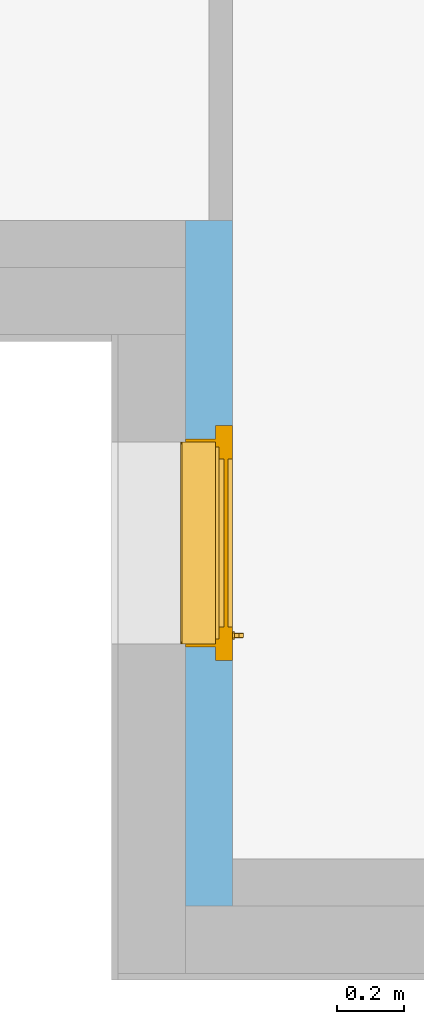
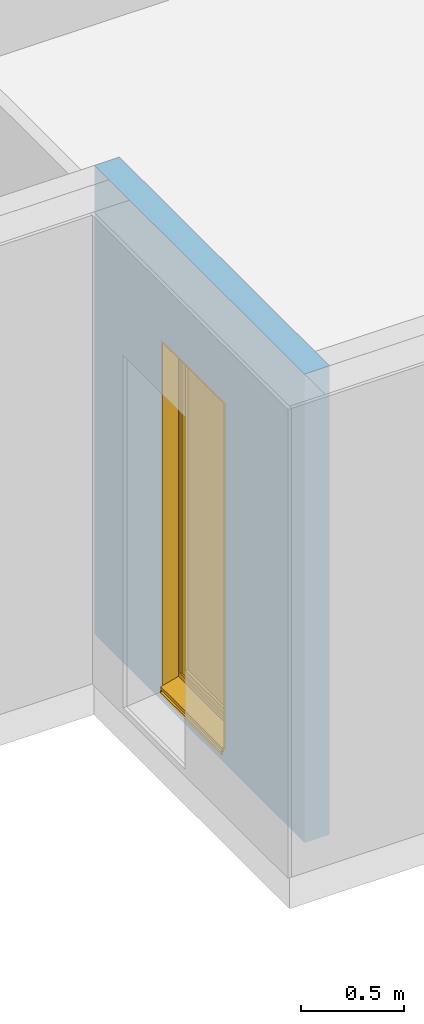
"""IFC2X3 building model written with IfcOpenShell, lengths in centimetres."""

from ifc_helpers import new_model, entity, si_unit, converted_unit, derived_unit, direction, frame, frame_2d, origin, place, context, subcontext, project, spatial, rectangle, extrude, faceted_brep, source, transform, mapped, material, material_list, layer, layer_set, layer_usage, type_object, type_shapes, element, fill, save


model = new_model("IFC2X3")

# Units and contexts
model_context = context("Model", 3, precision=0.001, world=origin(), true_north=direction((6.123031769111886e-17, 1.0)))
body_context = subcontext(model_context, "Body", "Model", "MODEL_VIEW")
ifc_project = project(units=[si_unit("LENGTHUNIT", "METRE", prefix="CENTI"), si_unit("AREAUNIT", "SQUARE_METRE"), si_unit("VOLUMEUNIT", "CUBIC_METRE"), converted_unit("PLANEANGLEUNIT", "DEGREE", entity("IfcRatioMeasure", 0.017453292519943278), si_unit("PLANEANGLEUNIT", "RADIAN"), dimensions=[0, 0, 0, 0, 0, 0, 0]), si_unit("MASSUNIT", "GRAM", prefix="KILO"), derived_unit("MASSDENSITYUNIT", [(si_unit("MASSUNIT", "GRAM", prefix="KILO"), 1), (si_unit("LENGTHUNIT", "METRE"), -3)]), derived_unit("MOMENTOFINERTIAUNIT", [(si_unit("LENGTHUNIT", "METRE"), 4)]), si_unit("TIMEUNIT", "SECOND"), si_unit("FREQUENCYUNIT", "HERTZ"), si_unit("THERMODYNAMICTEMPERATUREUNIT", "DEGREE_CELSIUS"), derived_unit("THERMALTRANSMITTANCEUNIT", [(si_unit("MASSUNIT", "GRAM", prefix="KILO"), 1), (si_unit("THERMODYNAMICTEMPERATUREUNIT", "KELVIN"), -1), (si_unit("TIMEUNIT", "SECOND"), -3)]), derived_unit("VOLUMETRICFLOWRATEUNIT", [(si_unit("LENGTHUNIT", "METRE"), 3), (si_unit("TIMEUNIT", "SECOND"), -1)]), derived_unit("MASSFLOWRATEUNIT", [(si_unit("MASSUNIT", "GRAM", prefix="KILO"), 1), (si_unit("TIMEUNIT", "SECOND"), -1)]), derived_unit("ROTATIONALFREQUENCYUNIT", [(si_unit("TIMEUNIT", "SECOND"), -1)]), si_unit("ELECTRICCURRENTUNIT", "AMPERE"), si_unit("ELECTRICVOLTAGEUNIT", "VOLT"), si_unit("POWERUNIT", "WATT"), si_unit("FORCEUNIT", "NEWTON", prefix="KILO"), si_unit("ILLUMINANCEUNIT", "LUX"), si_unit("LUMINOUSFLUXUNIT", "LUMEN"), si_unit("LUMINOUSINTENSITYUNIT", "CANDELA"), derived_unit("USERDEFINED", [(si_unit("MASSUNIT", "GRAM", prefix="KILO"), -1), (si_unit("LENGTHUNIT", "METRE"), -2), (si_unit("TIMEUNIT", "SECOND"), 3), (si_unit("LUMINOUSFLUXUNIT", "LUMEN"), 1)]), derived_unit("SOUNDPOWERUNIT", [(si_unit("MASSUNIT", "GRAM", prefix="KILO"), 1), (si_unit("LENGTHUNIT", "METRE"), 2), (si_unit("TIMEUNIT", "SECOND"), -3)]), derived_unit("SOUNDPRESSUREUNIT", [(si_unit("MASSUNIT", "GRAM", prefix="KILO"), 1), (si_unit("LENGTHUNIT", "METRE"), -1), (si_unit("TIMEUNIT", "SECOND"), -2)]), derived_unit("LINEARVELOCITYUNIT", [(si_unit("LENGTHUNIT", "METRE"), 1), (si_unit("TIMEUNIT", "SECOND"), -1)]), si_unit("PRESSUREUNIT", "PASCAL"), derived_unit("USERDEFINED", [(si_unit("LENGTHUNIT", "METRE"), -2), (si_unit("MASSUNIT", "GRAM", prefix="KILO"), 1), (si_unit("TIMEUNIT", "SECOND"), -2)]), derived_unit("LINEARFORCEUNIT", [(si_unit("MASSUNIT", "GRAM", prefix="KILO"), 1), (si_unit("LENGTHUNIT", "METRE"), 1), (si_unit("TIMEUNIT", "SECOND"), -2), (si_unit("LENGTHUNIT", "METRE"), -1)]), derived_unit("PLANARFORCEUNIT", [(si_unit("MASSUNIT", "GRAM", prefix="KILO"), 1), (si_unit("LENGTHUNIT", "METRE"), 1), (si_unit("TIMEUNIT", "SECOND"), -2), (si_unit("LENGTHUNIT", "METRE"), -2)])], contexts=[model_context])

# Site, building, storey
site_placement = place(None, origin())
site = spatial("IfcSite", under=ifc_project, at=site_placement, Name="Default", CompositionType="ELEMENT")
building_placement = place(site_placement, origin())
building = spatial("IfcBuilding", under=site, at=building_placement, CompositionType="ELEMENT")
storey_1_placement = place(building_placement, frame((0.0, 0.0, -8.0)))
storey_1 = spatial("IfcBuildingStorey", under=building, at=storey_1_placement, Name="-0.08_Dessus plancher", CompositionType="ELEMENT", Elevation=-8.000000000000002)

# Wall, opening
ifc_material_1 = material(Name="Isolant rigide")
ifc_layer = layer(ifc_material_1, 14.0)
ifc_layer_set = layer_set([ifc_layer], Name="Mur de base:Doublage 14")
ifc_layer_usage = layer_usage(ifc_layer_set, "AXIS2", "NEGATIVE", 7.0)
wall_type = type_object("IfcWallType", Name="Mur de base:Doublage 14", PredefinedType="STANDARD", material=ifc_layer_set)
wall_placement = place(storey_1_placement, frame((-954.8253630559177, -84.39570391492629, 0.0), z_axis=(0.0, 0.0, 1.0), x_axis=(0.0, 1.0, 0.0)))
wall = element("IfcWallStandardCase", 1, at=wall_placement, inside=storey_1, type_object=wall_type, material=ifc_layer_usage, Name="Mur de base:Doublage 14", ObjectType="Mur de base:Doublage 14", context=body_context, shape_type="SweptSolid", body=[
    extrude(rectangle(XDim=204.00000000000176, YDim=13.999999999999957, at=frame_2d((102.0000000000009, 6.616929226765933e-14), x_axis=(-1.0, 0.0))), origin(), (0.0, 0.0, 1.0), 278.00000000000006),
])
opening_placement = place(wall_placement, frame((73.0, 50.0, 1.7703094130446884), z_axis=(0.0, 0.0, 1.0), x_axis=(0.0, -1.0, 0.0)))
opening = element("IfcOpeningElement", 2, at=opening_placement, cuts=wall, Name="Mur de base:Doublage 14", ObjectType="Opening", context=body_context, shape_type="Brep", body=[
    faceted_brep([(45.0, 5.0, 6.229690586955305), (43.0, 5.0, 6.229690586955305), (43.0, 5.0, 211.22969058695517), (0.0, 5.0, 211.22969058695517), (0.0, 5.0, 0.0), (45.0, 5.0, 4.729690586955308), (100.0, 65.0, 6.229690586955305), (57.0, 65.0, 6.229690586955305), (57.0, 65.0, 211.22969058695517), (100.0, 65.0, 211.22969058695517), (100.0, 5.0, 6.229690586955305), (57.0, 5.0, 6.229690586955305), (57.0, 0.0, 6.229690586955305), (52.0, 0.0, 6.229690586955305), (52.0, 4.0, 6.229690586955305), (43.0, 4.0, 6.229690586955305), (45.0, 65.0, 6.229690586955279), (43.0, 65.0, 6.229690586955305), (43.0, 66.0, 6.229690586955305), (52.0, 66.0, 6.229690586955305), (52.0, 70.0, 6.229690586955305), (57.0, 70.0, 6.229690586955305), (100.0, 5.0, 211.22969058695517), (43.0, 65.0, 211.22969058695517), (0.0, 65.0, 211.22969058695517), (0.0, 65.0, 0.0), (45.0, 65.0, 4.729690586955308), (57.0, 0.0, 216.22969058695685), (52.0, 0.0, 216.22969058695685), (52.0, 70.0, 216.22969058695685), (52.0, 66.0, 212.22969058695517), (52.0, 4.0, 212.22969058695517), (43.0, 4.0, 212.22969058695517), (43.0, 66.0, 212.22969058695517), (57.0, 5.0, 211.22969058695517), (57.0, 70.0, 216.22969058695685)], [[[0, 1, 2, 3, 4, 5]], [[6, 7, 8, 9]], [[10, 11, 12, 13, 14, 15, 1, 0, 16, 17, 18, 19, 20, 21, 7, 6]], [[10, 6, 9, 22]], [[3, 2, 23, 24]], [[3, 24, 25, 4]], [[4, 25, 26, 5]], [[5, 26, 16, 0]], [[12, 27, 28, 13]], [[13, 28, 29, 20, 19, 30, 31, 14]], [[14, 31, 32, 15]], [[15, 32, 33, 18, 17, 23, 2, 1]], [[11, 34, 8, 7, 21, 35, 27, 12]], [[27, 35, 29, 28]], [[30, 33, 32, 31]], [[29, 35, 21, 20]], [[19, 18, 33, 30]], [[9, 8, 34, 22]], [[24, 23, 17, 16, 26, 25]], [[22, 34, 11, 10]]]),
])

# Storey
storey_2_placement = place(building_placement, origin())
storey_2 = spatial("IfcBuildingStorey", under=building, at=storey_2_placement, Name="1_Rez-de-chaussée", CompositionType="ELEMENT", Elevation=-7.93413063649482e-11)

# Window
ifc_material_2 = material(Name="Fenêtre - Poignée")
ifc_material_3 = material(Name="Fenêtre - Appui")
ifc_material_4 = material(Name="Fenêtre - Vitrage")
ifc_material_5 = material(Name="Fenêtre - Cadre")
ifc_material_list_1 = material_list([ifc_material_2, ifc_material_2, ifc_material_3, ifc_material_3, ifc_material_3, ifc_material_4, ifc_material_5, ifc_material_5, ifc_material_5])
ifc_material_list_2 = material_list([ifc_material_2, ifc_material_2, ifc_material_3, ifc_material_3, ifc_material_3, ifc_material_4, ifc_material_5, ifc_material_5, ifc_material_5])
window_style = type_object("IfcWindowStyle", Name="1 Vantail - Droit:0.60 m x 2.05 m", ConstructionType="NOTDEFINED", OperationType="NOTDEFINED", ParameterTakesPrecedence=False, Sizeable=False, material=ifc_material_list_2)
shared_shape = source(origin(), body_context, "Body", "Brep", [
    faceted_brep([(8.064600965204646, -57.60000000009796, 68.43308351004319), (8.203392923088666, -57.60000000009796, 68.29429155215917), (8.203392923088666, -57.60000000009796, 67.16292070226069), (8.066769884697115, -57.60000000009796, 67.02629766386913), (6.933230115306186, -57.60000000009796, 67.02629766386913), (6.796607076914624, -57.60000000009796, 67.16292070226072), (6.796607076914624, -57.60000000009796, 68.29429155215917), (6.935399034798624, -57.60000000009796, 68.43308351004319), (8.064600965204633, -58.891354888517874, 68.43308351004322), (8.203392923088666, -58.833865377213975, 68.29429155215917), (8.203392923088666, -60.16460096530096, 66.9635559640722), (8.203392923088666, -60.16460096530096, 58.22969058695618), (8.203392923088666, -59.033230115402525, 58.22969058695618), (8.203392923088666, -59.03323011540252, 66.49492681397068), (8.203392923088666, -58.36523622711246, 67.16292070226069), (8.066769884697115, -58.308645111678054, 67.02629766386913), (6.9332301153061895, -58.308645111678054, 67.02629766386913), (6.796607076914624, -58.36523622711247, 67.16292070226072), (6.796607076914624, -59.03323011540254, 66.49492681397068), (6.796607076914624, -59.03323011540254, 58.22969058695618), (6.796607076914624, -60.16460096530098, 58.22969058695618), (6.796607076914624, -60.16460096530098, 66.9635559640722), (6.796607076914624, -58.833865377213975, 68.29429155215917), (6.935399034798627, -58.89135488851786, 68.43308351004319), (8.064600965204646, -60.303392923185, 67.02104547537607), (8.066769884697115, -58.896607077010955, 66.43833569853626), (6.9332301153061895, -58.89660707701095, 66.43833569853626), (6.935399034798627, -60.303392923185, 67.02104547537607), (8.064600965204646, -60.30339292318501, 58.22969058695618), (6.935399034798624, -60.30339292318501, 58.22969058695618), (6.933230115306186, -58.89660707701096, 58.22969058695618), (8.066769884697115, -58.89660707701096, 58.22969058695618)], [[[0, 1, 2, 3, 4, 5, 6, 7]], [[1, 0, 8, 9]], [[2, 1, 9, 10, 11, 12, 13, 14]], [[3, 2, 14, 15]], [[4, 3, 15, 16]], [[5, 4, 16, 17]], [[6, 5, 17, 18, 19, 20, 21, 22]], [[7, 6, 22, 23]], [[0, 7, 23, 8]], [[9, 8, 24, 10]], [[15, 14, 13, 25]], [[16, 15, 25, 26]], [[17, 16, 26, 18]], [[23, 22, 21, 27]], [[8, 23, 27, 24]], [[28, 29, 20, 19, 30, 31, 12, 11]], [[10, 24, 28, 11]], [[25, 13, 12, 31]], [[26, 25, 31, 30]], [[18, 26, 30, 19]], [[27, 21, 20, 29]], [[24, 27, 29, 28]]]),
    faceted_brep([(8.200000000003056, -57.60000000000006, 70.22969058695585), (6.800000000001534, -57.60000000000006, 70.22969058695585), (6.300000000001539, -57.60000000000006, 69.72969058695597), (6.300000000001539, -57.60000000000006, 62.72969058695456), (6.800000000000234, -57.60000000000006, 62.22969058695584), (8.200000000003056, -57.60000000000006, 62.22969058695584), (8.700000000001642, -57.60000000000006, 62.72969058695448), (8.700000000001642, -57.60000000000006, 69.72969058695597), (8.200000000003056, -57.0, 70.22969058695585), (8.700000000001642, -57.0, 69.72969058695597), (8.700000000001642, -57.0, 62.72969058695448), (8.200000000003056, -57.0, 62.22969058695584), (6.800000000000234, -57.0, 62.22969058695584), (6.300000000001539, -57.0, 62.72969058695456), (6.300000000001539, -57.0, 69.72969058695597), (6.800000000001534, -57.0, 70.22969058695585)], [[[0, 1, 2, 3, 4, 5, 6, 7]], [[8, 9, 10, 11, 12, 13, 14, 15]], [[1, 0, 8, 15]], [[2, 1, 15, 14]], [[3, 2, 14, 13]], [[4, 3, 13, 12]], [[5, 4, 12, 11]], [[6, 5, 11, 10]], [[7, 6, 10, 9]], [[0, 7, 9, 8]]]),
    faceted_brep([(65.0, -41.49999999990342, 4.887346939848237), (65.0, -44.49999999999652, 5.202659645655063), (65.0, -44.49999999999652, 6.229690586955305), (65.0, -45.0, 6.229690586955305), (65.0, -45.0, 4.729690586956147), (65.0, -42.0, 4.4143778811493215), (65.0, -42.0, 3.384327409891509), (65.0, -41.49999999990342, 3.331775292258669), (5.0, -41.49999999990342, 4.887346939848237), (5.0, -41.49999999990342, 3.331775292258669), (5.0, -42.0, 3.384327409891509), (5.0, -42.0, 4.4143778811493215), (5.0, -45.0, 4.729690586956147), (5.0, -45.0, 6.229690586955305), (5.0, -44.49999999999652, 6.229690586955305), (5.0, -44.49999999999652, 5.202659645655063)], [[[0, 1, 2, 3, 4, 5, 6, 7]], [[8, 9, 10, 11, 12, 13, 14, 15]], [[1, 0, 8, 15]], [[2, 1, 15, 14]], [[3, 2, 14, 13]], [[4, 3, 13, 12]], [[5, 4, 12, 11]], [[6, 5, 11, 10]], [[7, 6, 10, 9]], [[0, 7, 9, 8]]]),
    faceted_brep([(5.0, -41.49999999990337, 5.029939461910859), (5.0, -41.49999999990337, 4.887346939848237), (5.0, -44.499999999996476, 5.202659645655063), (5.0, -44.499999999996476, 5.7054137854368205), (5.0, -41.85818861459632, 5.427748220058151), (5.0, -41.60274206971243, 5.297591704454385), (5.5000000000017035, -44.499999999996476, 5.7054137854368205), (5.5000000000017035, -44.499999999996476, 5.202659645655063), (5.500000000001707, -41.49999999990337, 4.887346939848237), (5.500000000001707, -41.49999999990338, 5.029939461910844), (5.500000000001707, -41.60274206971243, 5.297591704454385), (5.500000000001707, -41.85818861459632, 5.427748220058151)], [[[0, 1, 2, 3, 4, 5]], [[6, 7, 8, 9, 10, 11]], [[2, 1, 8, 7]], [[3, 2, 7, 6]], [[4, 3, 6, 11]], [[4, 11, 10, 5]], [[10, 9, 0, 5]], [[1, 0, 9, 8]]]),
    faceted_brep([(64.5000000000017, -41.49999999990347, 5.029939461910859), (64.5000000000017, -41.49999999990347, 4.887346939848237), (64.5000000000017, -44.49999999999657, 5.202659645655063), (64.5000000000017, -44.49999999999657, 5.7054137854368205), (64.5000000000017, -41.858188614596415, 5.427748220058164), (64.5000000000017, -41.60274206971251, 5.2975917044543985), (65.0, -44.49999999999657, 5.7054137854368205), (65.0, -44.49999999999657, 5.202659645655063), (65.0, -41.49999999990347, 4.887346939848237), (65.0, -41.499999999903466, 5.029939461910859), (65.0, -41.60274206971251, 5.2975917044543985), (65.0, -41.85818861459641, 5.427748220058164)], [[[0, 1, 2, 3, 4, 5]], [[6, 7, 8, 9, 10, 11]], [[2, 1, 8, 7]], [[3, 2, 7, 6]], [[4, 3, 6, 11]], [[4, 11, 10, 5]], [[10, 9, 0, 5]], [[1, 0, 9, 8]]]),
    faceted_brep([(10.0, -54.40000000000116, 16.229690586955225), (10.0, -54.40000000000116, 206.22969058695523), (60.0, -54.40000000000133, 206.22969058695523), (60.0, -54.40000000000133, 16.229690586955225), (10.0, -55.60000000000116, 16.229690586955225), (10.0, -55.60000000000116, 206.22969058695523), (60.0, -55.60000000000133, 206.22969058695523), (60.0, -55.60000000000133, 16.229690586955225)], [[[0, 1, 2, 3]], [[1, 0, 4, 5]], [[3, 2, 6, 7]], [[0, 3, 7, 4]], [[4, 7, 6, 5]], [[2, 1, 5, 6]]]),
    faceted_brep([(10.0, -53.0, 206.22969058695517), (10.0, -57.0, 206.22969058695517), (10.0, -57.0, 16.22969058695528), (10.0, -53.0, 16.22969058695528), (60.0, -57.0, 16.229690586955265), (60.0, -53.0, 16.22969058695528), (60.0, -57.0, 206.22969058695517), (65.0, -57.0, 11.229690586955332), (65.0, -57.0, 211.22969058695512), (5.0, -57.0, 211.22969058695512), (5.0, -57.0, 11.229690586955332), (60.0, -53.0, 206.22969058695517), (5.0, -53.0, 11.229690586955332), (5.0, -53.0, 211.22969058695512), (65.0, -53.0, 211.22969058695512), (65.0, -53.0, 11.22969058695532)], [[[0, 1, 2, 3]], [[3, 2, 4, 5]], [[2, 1, 6, 4], [7, 8, 9, 10]], [[5, 4, 6, 11]], [[5, 11, 0, 3], [12, 13, 14, 15]], [[9, 13, 12, 10]], [[10, 12, 15, 7]], [[7, 15, 14, 8]], [[11, 6, 1, 0]], [[8, 14, 13, 9]]], outer=[[True], [True], [False, True], [True], [False, True], [True], [True], [True], [True], [True]]),
    faceted_brep([(0.0, -57.0, 6.229690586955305), (0.0, -52.0, 6.229690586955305), (5.0, -52.0, 6.229690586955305), (5.0, -43.0, 6.229690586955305), (65.0, -43.0, 6.229690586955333), (65.0, -52.0, 6.229690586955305), (70.0, -52.0, 6.229690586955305), (70.0, -57.0, 6.229690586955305), (0.0, -57.0, 216.22969058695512), (0.0, -52.0, 216.22969058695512), (70.0, -52.0, 216.22969058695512), (65.0, -52.0, 10.167304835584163), (5.0, -52.0, 10.167304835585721), (6.500000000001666, -52.0, 209.7296905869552), (6.500000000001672, -52.0, 12.729690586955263), (63.5000000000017, -52.0, 12.729690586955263), (63.500000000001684, -52.0, 209.7296905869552), (5.0, -42.0, 7.48781291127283), (5.0, -42.0, 5.729690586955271), (5.0, -43.0, 5.729690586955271), (65.0, -43.0, 5.729690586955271), (65.0, -42.0, 5.729690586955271), (65.0, -42.0, 7.48781291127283), (70.0, -57.0, 216.22969058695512), (65.0, -57.0, 211.22969058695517), (65.0, -57.0, 11.229690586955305), (5.0, -57.0, 11.229690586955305), (5.0, -57.0, 211.22969058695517), (6.500000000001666, -53.0, 209.7296905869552), (6.500000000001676, -53.0, 12.729690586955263), (63.5000000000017, -53.0, 12.729690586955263), (63.500000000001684, -53.0, 209.7296905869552), (65.0, -53.0, 211.22969058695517), (5.0, -53.0, 211.22969058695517), (5.0, -53.0, 11.229690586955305), (65.0, -53.0, 11.229690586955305)], [[[0, 1, 2, 3, 4, 5, 6, 7]], [[1, 0, 8, 9]], [[1, 9, 10, 6, 5, 11, 12, 2], [13, 14, 15, 16]], [[12, 17, 18, 19, 3, 2]], [[3, 19, 20, 4]], [[4, 20, 21, 22, 11, 5]], [[6, 10, 23, 7]], [[0, 7, 23, 8], [24, 25, 26, 27]], [[13, 28, 29, 14]], [[29, 30, 15, 14]], [[31, 16, 15, 30]], [[17, 12, 11, 22]], [[28, 31, 30, 29], [32, 33, 34, 35]], [[34, 33, 27, 26]], [[26, 25, 35, 34]], [[24, 32, 35, 25]], [[18, 17, 22, 21]], [[19, 18, 21, 20]], [[13, 16, 31, 28]], [[10, 9, 8, 23]], [[33, 32, 24, 27]]], outer=[[True], [True], [True, False], [True], [True], [True], [True], [True, False], [True], [True], [True], [True], [False, True], [True], [True], [True], [True], [True], [True], [True], [True]]),
    faceted_brep([(5.0, -43.0, 6.229690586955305), (5.0, -52.0, 6.229690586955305), (4.0, -52.0, 6.229690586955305), (4.0, -43.0, 6.229690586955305), (5.0, -43.0, 211.22969058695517), (5.0, -52.0, 211.22969058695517), (65.0, -52.0, 211.22969058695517), (65.0, -52.0, 6.229690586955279), (66.0, -52.0, 6.229690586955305), (66.0, -52.0, 212.22969058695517), (4.0, -52.0, 212.22969058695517), (4.0, -43.0, 212.22969058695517), (66.0, -43.0, 212.22969058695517), (66.0, -43.0, 6.229690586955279), (65.0, -43.0, 6.229690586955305), (65.0, -43.0, 211.22969058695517)], [[[0, 1, 2, 3]], [[1, 0, 4, 5]], [[2, 1, 5, 6, 7, 8, 9, 10]], [[3, 2, 10, 11]], [[0, 3, 11, 12, 13, 14, 15, 4]], [[6, 15, 14, 7]], [[14, 13, 8, 7]], [[12, 9, 8, 13]], [[5, 4, 15, 6]], [[11, 10, 9, 12]]]),
])
type_shapes(window_style, [shared_shape])
window_placement = place(opening_placement, frame((0.0, 0.0, 0.0), z_axis=(0.0, 0.0, 1.0), x_axis=(0.0, 1.0, 0.0)))
window = element("IfcWindow", 3, at=window_placement, inside=storey_2, type_object=window_style, material=ifc_material_list_1, Name="1 Vantail - Droit:0.60 m x 2.05 m", ObjectType="1 Vantail - Droit:0.60 m x 2.05 m", OverallHeight=218.00000000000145, OverallWidth=70.00000000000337, context=body_context, shape_type="MappedRepresentation", body=[
    mapped(shared_shape, transform((0.0, 0.0, 0.0), scale=1.0)),
])

fill(opening, window)

save(model, "model.ifc")
